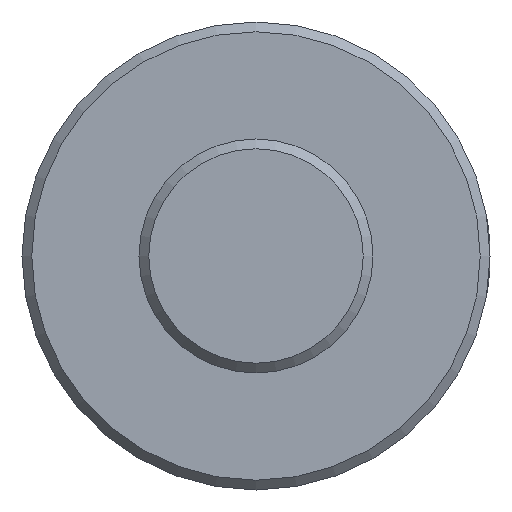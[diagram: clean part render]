
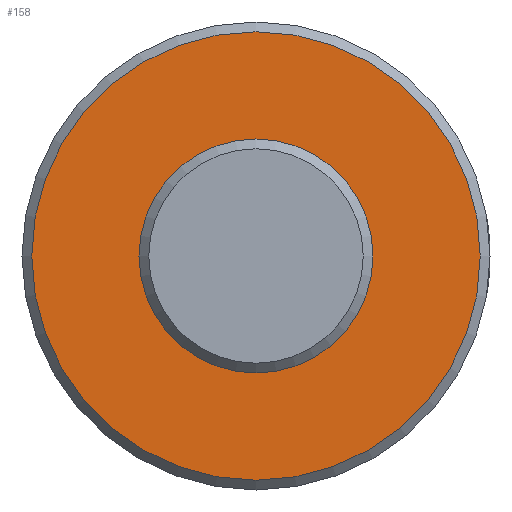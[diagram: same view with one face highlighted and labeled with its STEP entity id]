
A CAD part, left-side view. The second image highlights one B-rep face of the part: STEP entity #158.
In plain terms, the highlighted planar face has unit normal (-1, 0, 0).
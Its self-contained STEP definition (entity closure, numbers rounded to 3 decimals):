
#137=PLANE('',#360);
#158=ADVANCED_FACE('',(#187,#188),#137,.F.);
#187=FACE_BOUND('',#210,.T.);
#188=FACE_BOUND('',#211,.T.);
#210=EDGE_LOOP('',(#245));
#211=EDGE_LOOP('',(#246));
#245=ORIENTED_EDGE('',*,*,#319,.T.);
#246=ORIENTED_EDGE('',*,*,#316,.T.);
#294=VERTEX_POINT('',#593);
#297=VERTEX_POINT('',#657);
#316=EDGE_CURVE('',#294,#294,#338,.T.);
#319=EDGE_CURVE('',#297,#297,#339,.T.);
#338=CIRCLE('',#357,6.);
#339=CIRCLE('',#359,11.5);
#357=AXIS2_PLACEMENT_3D('',#592,#402,#403);
#359=AXIS2_PLACEMENT_3D('',#656,#406,#407);
#360=AXIS2_PLACEMENT_3D('',#658,#408,#409);
#402=DIRECTION('',(1.,0.,0.));
#403=DIRECTION('',(0.,0.,1.));
#406=DIRECTION('',(-1.,0.,0.));
#407=DIRECTION('',(0.,0.,-1.));
#408=DIRECTION('',(1.,0.,0.));
#409=DIRECTION('',(0.,0.,-1.));
#592=CARTESIAN_POINT('',(-60.,0.,0.));
#593=CARTESIAN_POINT('',(-60.,0.,6.));
#656=CARTESIAN_POINT('',(-60.,0.,0.));
#657=CARTESIAN_POINT('',(-60.,0.,-11.5));
#658=CARTESIAN_POINT('',(-60.,0.,0.));
